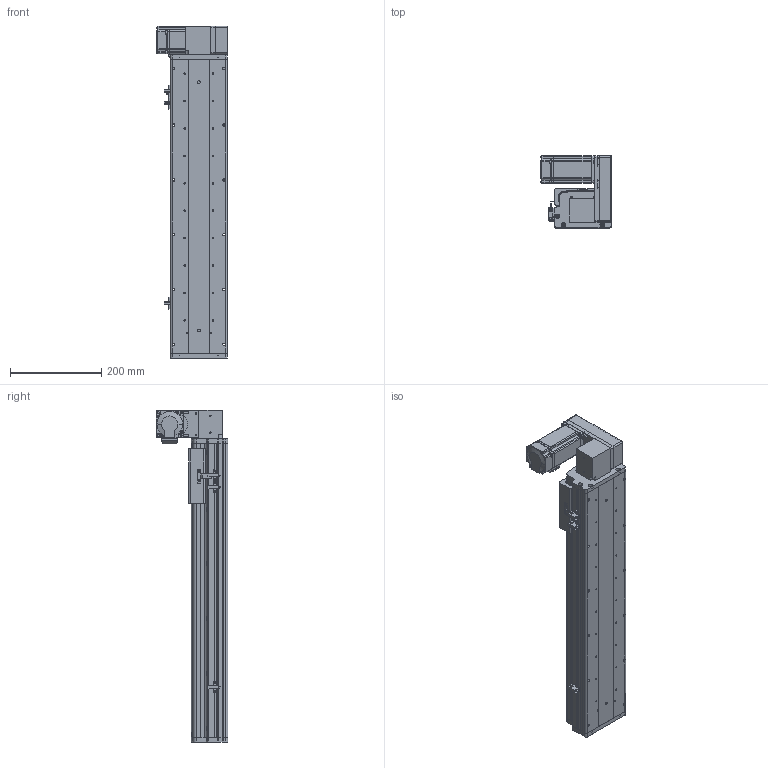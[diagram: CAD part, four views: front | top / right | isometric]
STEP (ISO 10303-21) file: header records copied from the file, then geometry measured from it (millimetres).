
FILE_DESCRIPTION (( 'STEP AP214' ), '1' );
FILE_NAME ('KSD125B-S450-MLU-CM.STEP', '2017-10-21T03:14:58', ( '微软用户' ), ( '微软中国' ), 'SwSTEP 2.0', 'SolidWorks 2014', '' );
FILE_SCHEMA (( 'AUTOMOTIVE_DESIGN' ));
Length unit declared in the file: millimetre
Products named in the file (17): HTPA30S3M150_A_H6_a佪裝蚚; HTPA30S3M150_A_H6_a萇儂蚚; MHMD042G1CA_2_03; 100宽马达安装板同步带左; KSD125模组450行程同步带-防尘盖; 125模组450行程同步带-底板; KSD125模组同步带-防撞垫2; 覜茼え68遵圉猾敕; U倰嫖萇假蚾璃; U倰嫖萇EEㄜSX672; KSD125模组同步带-防撞垫1; 前端板-125宽模组同步带; 125模组同步带-尾端板1; KSD125模组同步带-滑动座1; KSD125B-S450-MLU-CM; 悵誘欶奻狟殏; 100宽马达安装板连板上下折丝杆同步带
Assembly tree (20 placements, depth 2):
  KSD125B-S450-MLU-CM
    KSD125模组同步带-滑动座1
    125模组同步带-尾端板1
    前端板-125宽模组同步带
    KSD125模组同步带-防撞垫1
    U倰嫖萇EEㄜSX672  x3
    U倰嫖萇假蚾璃  x3
    覜茼え68遵圉猾敕
    KSD125模组同步带-防撞垫2
    125模组450行程同步带-底板
    KSD125模组450行程同步带-防尘盖
    100宽马达安装板同步带左
    MHMD042G1CA_2_03
    HTPA30S3M150_A_H6_a萇儂蚚
    HTPA30S3M150_A_H6_a佪裝蚚
    100宽马达安装板连板上下折丝杆同步带
    悵誘欶奻狟殏
Bounding box: 155 x 157.5 x 727 mm (x, y, z)
Volume: 2457131.7 mm3; surface area: 858139.9 mm2
Topology: 19 solids, 22 shells, 2235 faces, 6469 edges, 4274 vertices
Faces by surface type: cylinder 1388, plane 720, cone 105, bspline 22
Entity records: 79151 total; most frequent: CARTESIAN_POINT 15663, DIRECTION 12314, ORIENTED_EDGE 11458, EDGE_CURVE 5807, AXIS2_PLACEMENT_3D 4749, VERTEX_POINT 3866, VECTOR 2816, LINE 2816
